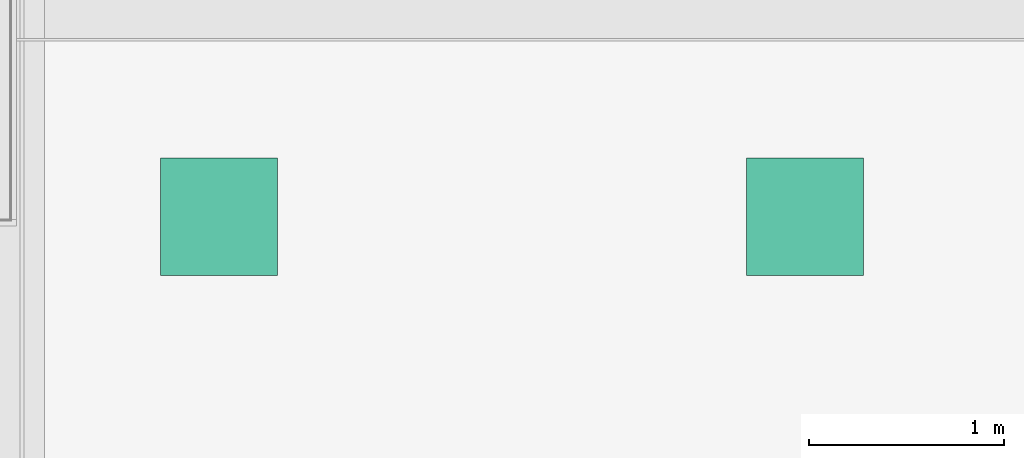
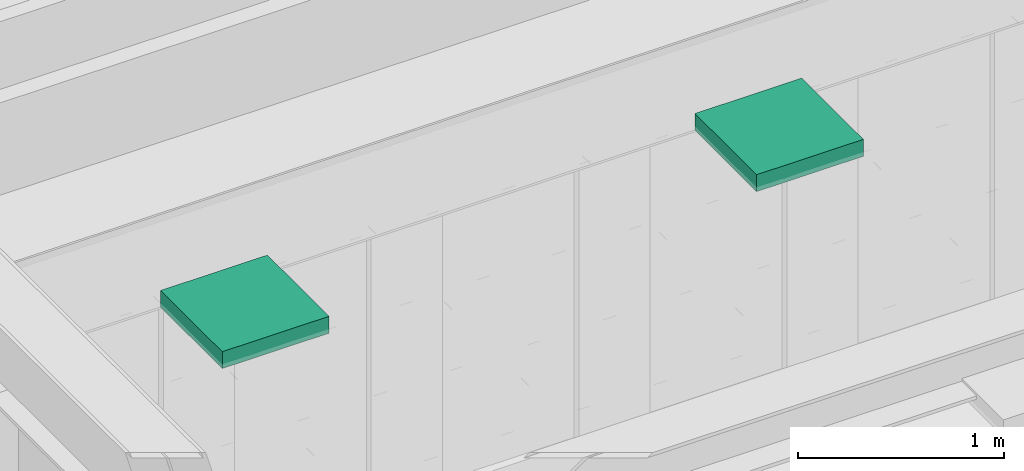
# One storey, part 238 of 347: 2 flow terminals.
"""IFC2X3 building model written with IfcOpenShell, lengths in millimetres."""

from ifc_helpers import new_model, entity, si_unit, converted_unit, derived_unit, money_unit, direction, frame, origin_with_axes, place, context, subcontext, project, spatial, open_shell, faceted_brep, surface_model, source, transform, mapped, type_object, type_shapes, element, save


model = new_model("IFC2X3")

# Units and contexts
model_context = context("Model", 3, precision=0.01, world=origin_with_axes(), true_north=direction((0.0, 1.0)))
plan_context = context("Plan", 3, precision=0.01, world=origin_with_axes(), true_north=direction((0.0, 1.0)))
body_context = subcontext(model_context, "Body", "Model", "MODEL_VIEW")
ifc_project = project(units=[si_unit("LENGTHUNIT", "METRE", prefix="MILLI"), si_unit("AREAUNIT", "SQUARE_METRE"), si_unit("VOLUMEUNIT", "CUBIC_METRE"), converted_unit("PLANEANGLEUNIT", "DEGREE", entity("IfcPlaneAngleMeasure", 0.0174532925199), si_unit("PLANEANGLEUNIT", "RADIAN"), dimensions=[0, 0, 0, 0, 0, 0, 0]), money_unit("EUR"), converted_unit("TIMEUNIT", "Year", entity("IfcTimeMeasure", 31556926.0), si_unit("TIMEUNIT", "SECOND"), dimensions=[0, 0, 1, 0, 0, 0, 0]), si_unit("MASSUNIT", "GRAM", prefix="KILO"), si_unit("THERMODYNAMICTEMPERATUREUNIT", "DEGREE_CELSIUS"), si_unit("LUMINOUSINTENSITYUNIT", "LUMEN"), si_unit("ENERGYUNIT", "JOULE", prefix="MEGA"), derived_unit("THERMALCONDUCTANCEUNIT", [(si_unit("POWERUNIT", "WATT"), 1), (si_unit("LENGTHUNIT", "METRE"), -1), (si_unit("THERMODYNAMICTEMPERATUREUNIT", "KELVIN"), -1)]), derived_unit("SPECIFICHEATCAPACITYUNIT", [(si_unit("ENERGYUNIT", "JOULE"), 1), (si_unit("MASSUNIT", "GRAM", prefix="KILO"), -1), (si_unit("THERMODYNAMICTEMPERATUREUNIT", "KELVIN"), -1)]), derived_unit("MASSDENSITYUNIT", [(si_unit("MASSUNIT", "GRAM", prefix="KILO"), 1), (si_unit("VOLUMEUNIT", "CUBIC_METRE"), -1)])], contexts=[model_context, plan_context])

# Site, building, storey
site_placement = place(None, origin_with_axes())
site = spatial("IfcSite", under=ifc_project, at=site_placement, Name="Site", CompositionType="ELEMENT")
building_placement = place(site_placement, origin_with_axes())
building = spatial("IfcBuilding", under=site, at=building_placement, Name="Naam gebouw", CompositionType="ELEMENT")
storey_placement = place(building_placement, origin_with_axes())
storey = spatial("IfcBuildingStorey", under=building, at=storey_placement, Name="begane grond", CompositionType="ELEMENT", Elevation=0.0)

# Flow terminals
lamp_type = type_object("IfcLampType", Name="TL plafond 25", PredefinedType="NOTDEFINED")
shared_shape = source(origin_with_axes(), body_context, "Body", "SurfaceModel", [
    faceted_brep([(0.0, 0.0, -100.0), (600.0, 0.0, -100.0), (600.0, 0.0, 0.0), (0.0, 0.0, 0.0), (0.0, 600.0, -100.0), (600.0, 600.0, -100.0), (40.0, 40.0, -100.0), (560.0, 40.0, -100.0), (560.0, 560.0, -100.0), (40.0, 560.0, -100.0), (600.0, 600.0, 0.0), (0.0, 600.0, 0.0), (40.0, 40.0, 0.0), (40.0, 560.0, 0.0), (560.0, 560.0, 0.0), (560.0, 40.0, 0.0)], [[[0, 1, 2, 3]], [[0, 4, 5, 1], [6, 7, 8, 9]], [[1, 5, 10, 2]], [[3, 2, 10, 11], [12, 13, 14, 15]], [[4, 0, 3, 11]], [[5, 4, 11, 10]], [[7, 6, 12, 15]], [[8, 7, 15, 14]], [[9, 8, 14, 13]], [[6, 9, 13, 12]]]),
    faceted_brep([(40.0, 40.0, -16.3333333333), (560.0, 40.0, -16.3333333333), (560.0, 40.0, 0.0), (40.0, 40.0, 0.0), (40.0, 560.0, -16.3333333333), (560.0, 560.0, -16.3333333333), (560.0, 560.0, 0.0), (40.0, 560.0, 0.0)], [[[0, 1, 2, 3]], [[0, 4, 5, 1]], [[1, 5, 6, 2]], [[3, 2, 6, 7]], [[4, 0, 3, 7]], [[5, 4, 7, 6]]]),
    surface_model("IfcShellBasedSurfaceModel", [(559.0, 41.0, -100.0), (40.0, 41.0, -100.0), (40.0, 559.0, -100.0), (559.0, 559.0, -100.0)], [open_shell([[[0, 1, 2, 3]]])]),
    faceted_brep([(40.0, 40.0, -100.0), (560.0, 40.0, -100.0), (560.0, 40.0, -60.0), (40.0, 40.0, -60.0), (40.0, 560.0, -100.0), (560.0, 560.0, -100.0), (41.0, 41.0, -100.0), (559.0, 41.0, -100.0), (559.0, 559.0, -100.0), (41.0, 559.0, -100.0), (560.0, 560.0, -60.0), (40.0, 560.0, -60.0), (41.0, 41.0, -60.0), (41.0, 559.0, -60.0), (559.0, 559.0, -60.0), (559.0, 41.0, -60.0)], [[[0, 1, 2, 3]], [[0, 4, 5, 1], [6, 7, 8, 9]], [[1, 5, 10, 2]], [[3, 2, 10, 11], [12, 13, 14, 15]], [[4, 0, 3, 11]], [[5, 4, 11, 10]], [[7, 6, 12, 15]], [[8, 7, 15, 14]], [[9, 8, 14, 13]], [[6, 9, 13, 12]]]),
    faceted_brep([(40.0, 144.0, -48.3333333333), (40.0, 149.740251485, -47.191526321), (560.0, 149.740251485, -47.191526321), (560.0, 144.0, -48.3333333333), (40.0, 138.259748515, -47.191526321), (40.0, 133.393398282, -43.9399350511), (40.0, 130.141807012, -39.0735848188), (40.0, 129.0, -33.3333333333), (40.0, 130.141807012, -27.5930818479), (40.0, 133.393398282, -22.7267316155), (40.0, 138.259748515, -19.4751403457), (40.0, 144.0, -18.3333333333), (40.0, 149.740251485, -19.4751403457), (40.0, 154.606601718, -22.7267316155), (40.0, 157.858192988, -27.5930818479), (40.0, 159.0, -33.3333333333), (40.0, 157.858192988, -39.0735848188), (40.0, 154.606601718, -43.9399350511), (40.0, 144.0, -46.3333333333), (40.0, 148.974884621, -45.343767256), (40.0, 153.192388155, -42.5257214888), (40.0, 156.010433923, -38.3082179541), (40.0, 157.0, -33.3333333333), (40.0, 156.010433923, -28.3584487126), (40.0, 153.192388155, -24.1409451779), (40.0, 148.974884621, -21.3228994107), (40.0, 144.0, -20.3333333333), (40.0, 139.025115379, -21.3228994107), (40.0, 134.807611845, -24.1409451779), (40.0, 131.989566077, -28.3584487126), (40.0, 131.0, -33.3333333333), (40.0, 131.989566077, -38.3082179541), (40.0, 134.807611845, -42.5257214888), (40.0, 139.025115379, -45.343767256), (560.0, 154.606601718, -43.9399350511), (560.0, 157.858192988, -39.0735848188), (560.0, 159.0, -33.3333333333), (560.0, 157.858192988, -27.5930818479), (560.0, 154.606601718, -22.7267316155), (560.0, 149.740251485, -19.4751403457), (560.0, 144.0, -18.3333333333), (560.0, 138.259748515, -19.4751403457), (560.0, 133.393398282, -22.7267316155), (560.0, 130.141807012, -27.5930818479), (560.0, 129.0, -33.3333333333), (560.0, 130.141807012, -39.0735848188), (560.0, 133.393398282, -43.9399350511), (560.0, 138.259748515, -47.191526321), (560.0, 144.0, -46.3333333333), (560.0, 139.025115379, -45.343767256), (560.0, 134.807611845, -42.5257214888), (560.0, 131.989566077, -38.3082179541), (560.0, 131.0, -33.3333333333), (560.0, 131.989566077, -28.3584487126), (560.0, 134.807611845, -24.1409451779), (560.0, 139.025115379, -21.3228994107), (560.0, 144.0, -20.3333333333), (560.0, 148.974884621, -21.3228994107), (560.0, 153.192388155, -24.1409451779), (560.0, 156.010433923, -28.3584487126), (560.0, 157.0, -33.3333333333), (560.0, 156.010433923, -38.3082179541), (560.0, 153.192388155, -42.5257214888), (560.0, 148.974884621, -45.343767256)], [[[0, 1, 2, 3]], [[0, 4, 5, 6, 7, 8, 9, 10, 11, 12, 13, 14, 15, 16, 17, 1], [18, 19, 20, 21, 22, 23, 24, 25, 26, 27, 28, 29, 30, 31, 32, 33]], [[1, 17, 34, 2]], [[3, 2, 34, 35, 36, 37, 38, 39, 40, 41, 42, 43, 44, 45, 46, 47], [48, 49, 50, 51, 52, 53, 54, 55, 56, 57, 58, 59, 60, 61, 62, 63]], [[4, 0, 3, 47]], [[5, 4, 47, 46]], [[6, 5, 46, 45]], [[7, 6, 45, 44]], [[8, 7, 44, 43]], [[9, 8, 43, 42]], [[10, 9, 42, 41]], [[11, 10, 41, 40]], [[12, 11, 40, 39]], [[13, 12, 39, 38]], [[14, 13, 38, 37]], [[15, 14, 37, 36]], [[16, 15, 36, 35]], [[17, 16, 35, 34]], [[19, 18, 48, 63]], [[20, 19, 63, 62]], [[21, 20, 62, 61]], [[22, 21, 61, 60]], [[23, 22, 60, 59]], [[24, 23, 59, 58]], [[25, 24, 58, 57]], [[26, 25, 57, 56]], [[27, 26, 56, 55]], [[28, 27, 55, 54]], [[29, 28, 54, 53]], [[30, 29, 53, 52]], [[31, 30, 52, 51]], [[32, 31, 51, 50]], [[33, 32, 50, 49]], [[18, 33, 49, 48]]]),
    faceted_brep([(40.0, 248.0, -48.3333333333), (40.0, 253.740251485, -47.191526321), (560.0, 253.740251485, -47.191526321), (560.0, 248.0, -48.3333333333), (40.0, 242.259748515, -47.191526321), (40.0, 237.393398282, -43.9399350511), (40.0, 234.141807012, -39.0735848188), (40.0, 233.0, -33.3333333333), (40.0, 234.141807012, -27.5930818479), (40.0, 237.393398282, -22.7267316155), (40.0, 242.259748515, -19.4751403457), (40.0, 248.0, -18.3333333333), (40.0, 253.740251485, -19.4751403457), (40.0, 258.606601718, -22.7267316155), (40.0, 261.858192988, -27.5930818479), (40.0, 263.0, -33.3333333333), (40.0, 261.858192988, -39.0735848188), (40.0, 258.606601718, -43.9399350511), (40.0, 248.0, -46.3333333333), (40.0, 252.974884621, -45.343767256), (40.0, 257.192388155, -42.5257214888), (40.0, 260.010433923, -38.3082179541), (40.0, 261.0, -33.3333333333), (40.0, 260.010433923, -28.3584487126), (40.0, 257.192388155, -24.1409451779), (40.0, 252.974884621, -21.3228994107), (40.0, 248.0, -20.3333333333), (40.0, 243.025115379, -21.3228994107), (40.0, 238.807611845, -24.1409451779), (40.0, 235.989566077, -28.3584487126), (40.0, 235.0, -33.3333333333), (40.0, 235.989566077, -38.3082179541), (40.0, 238.807611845, -42.5257214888), (40.0, 243.025115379, -45.343767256), (560.0, 258.606601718, -43.9399350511), (560.0, 261.858192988, -39.0735848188), (560.0, 263.0, -33.3333333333), (560.0, 261.858192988, -27.5930818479), (560.0, 258.606601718, -22.7267316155), (560.0, 253.740251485, -19.4751403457), (560.0, 248.0, -18.3333333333), (560.0, 242.259748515, -19.4751403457), (560.0, 237.393398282, -22.7267316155), (560.0, 234.141807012, -27.5930818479), (560.0, 233.0, -33.3333333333), (560.0, 234.141807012, -39.0735848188), (560.0, 237.393398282, -43.9399350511), (560.0, 242.259748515, -47.191526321), (560.0, 248.0, -46.3333333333), (560.0, 243.025115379, -45.343767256), (560.0, 238.807611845, -42.5257214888), (560.0, 235.989566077, -38.3082179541), (560.0, 235.0, -33.3333333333), (560.0, 235.989566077, -28.3584487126), (560.0, 238.807611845, -24.1409451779), (560.0, 243.025115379, -21.3228994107), (560.0, 248.0, -20.3333333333), (560.0, 252.974884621, -21.3228994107), (560.0, 257.192388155, -24.1409451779), (560.0, 260.010433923, -28.3584487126), (560.0, 261.0, -33.3333333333), (560.0, 260.010433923, -38.3082179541), (560.0, 257.192388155, -42.5257214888), (560.0, 252.974884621, -45.343767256)], [[[0, 1, 2, 3]], [[0, 4, 5, 6, 7, 8, 9, 10, 11, 12, 13, 14, 15, 16, 17, 1], [18, 19, 20, 21, 22, 23, 24, 25, 26, 27, 28, 29, 30, 31, 32, 33]], [[1, 17, 34, 2]], [[3, 2, 34, 35, 36, 37, 38, 39, 40, 41, 42, 43, 44, 45, 46, 47], [48, 49, 50, 51, 52, 53, 54, 55, 56, 57, 58, 59, 60, 61, 62, 63]], [[4, 0, 3, 47]], [[5, 4, 47, 46]], [[6, 5, 46, 45]], [[7, 6, 45, 44]], [[8, 7, 44, 43]], [[9, 8, 43, 42]], [[10, 9, 42, 41]], [[11, 10, 41, 40]], [[12, 11, 40, 39]], [[13, 12, 39, 38]], [[14, 13, 38, 37]], [[15, 14, 37, 36]], [[16, 15, 36, 35]], [[17, 16, 35, 34]], [[19, 18, 48, 63]], [[20, 19, 63, 62]], [[21, 20, 62, 61]], [[22, 21, 61, 60]], [[23, 22, 60, 59]], [[24, 23, 59, 58]], [[25, 24, 58, 57]], [[26, 25, 57, 56]], [[27, 26, 56, 55]], [[28, 27, 55, 54]], [[29, 28, 54, 53]], [[30, 29, 53, 52]], [[31, 30, 52, 51]], [[32, 31, 51, 50]], [[33, 32, 50, 49]], [[18, 33, 49, 48]]]),
    faceted_brep([(40.0, 352.0, -48.3333333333), (40.0, 357.740251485, -47.191526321), (560.0, 357.740251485, -47.191526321), (560.0, 352.0, -48.3333333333), (40.0, 346.259748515, -47.191526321), (40.0, 341.393398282, -43.9399350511), (40.0, 338.141807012, -39.0735848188), (40.0, 337.0, -33.3333333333), (40.0, 338.141807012, -27.5930818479), (40.0, 341.393398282, -22.7267316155), (40.0, 346.259748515, -19.4751403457), (40.0, 352.0, -18.3333333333), (40.0, 357.740251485, -19.4751403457), (40.0, 362.606601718, -22.7267316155), (40.0, 365.858192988, -27.5930818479), (40.0, 367.0, -33.3333333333), (40.0, 365.858192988, -39.0735848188), (40.0, 362.606601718, -43.9399350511), (40.0, 352.0, -46.3333333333), (40.0, 356.974884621, -45.343767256), (40.0, 361.192388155, -42.5257214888), (40.0, 364.010433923, -38.3082179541), (40.0, 365.0, -33.3333333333), (40.0, 364.010433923, -28.3584487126), (40.0, 361.192388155, -24.1409451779), (40.0, 356.974884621, -21.3228994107), (40.0, 352.0, -20.3333333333), (40.0, 347.025115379, -21.3228994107), (40.0, 342.807611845, -24.1409451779), (40.0, 339.989566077, -28.3584487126), (40.0, 339.0, -33.3333333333), (40.0, 339.989566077, -38.3082179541), (40.0, 342.807611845, -42.5257214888), (40.0, 347.025115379, -45.343767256), (560.0, 362.606601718, -43.9399350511), (560.0, 365.858192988, -39.0735848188), (560.0, 367.0, -33.3333333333), (560.0, 365.858192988, -27.5930818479), (560.0, 362.606601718, -22.7267316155), (560.0, 357.740251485, -19.4751403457), (560.0, 352.0, -18.3333333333), (560.0, 346.259748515, -19.4751403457), (560.0, 341.393398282, -22.7267316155), (560.0, 338.141807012, -27.5930818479), (560.0, 337.0, -33.3333333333), (560.0, 338.141807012, -39.0735848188), (560.0, 341.393398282, -43.9399350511), (560.0, 346.259748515, -47.191526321), (560.0, 352.0, -46.3333333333), (560.0, 347.025115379, -45.343767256), (560.0, 342.807611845, -42.5257214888), (560.0, 339.989566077, -38.3082179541), (560.0, 339.0, -33.3333333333), (560.0, 339.989566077, -28.3584487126), (560.0, 342.807611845, -24.1409451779), (560.0, 347.025115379, -21.3228994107), (560.0, 352.0, -20.3333333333), (560.0, 356.974884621, -21.3228994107), (560.0, 361.192388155, -24.1409451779), (560.0, 364.010433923, -28.3584487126), (560.0, 365.0, -33.3333333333), (560.0, 364.010433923, -38.3082179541), (560.0, 361.192388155, -42.5257214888), (560.0, 356.974884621, -45.343767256)], [[[0, 1, 2, 3]], [[0, 4, 5, 6, 7, 8, 9, 10, 11, 12, 13, 14, 15, 16, 17, 1], [18, 19, 20, 21, 22, 23, 24, 25, 26, 27, 28, 29, 30, 31, 32, 33]], [[1, 17, 34, 2]], [[3, 2, 34, 35, 36, 37, 38, 39, 40, 41, 42, 43, 44, 45, 46, 47], [48, 49, 50, 51, 52, 53, 54, 55, 56, 57, 58, 59, 60, 61, 62, 63]], [[4, 0, 3, 47]], [[5, 4, 47, 46]], [[6, 5, 46, 45]], [[7, 6, 45, 44]], [[8, 7, 44, 43]], [[9, 8, 43, 42]], [[10, 9, 42, 41]], [[11, 10, 41, 40]], [[12, 11, 40, 39]], [[13, 12, 39, 38]], [[14, 13, 38, 37]], [[15, 14, 37, 36]], [[16, 15, 36, 35]], [[17, 16, 35, 34]], [[19, 18, 48, 63]], [[20, 19, 63, 62]], [[21, 20, 62, 61]], [[22, 21, 61, 60]], [[23, 22, 60, 59]], [[24, 23, 59, 58]], [[25, 24, 58, 57]], [[26, 25, 57, 56]], [[27, 26, 56, 55]], [[28, 27, 55, 54]], [[29, 28, 54, 53]], [[30, 29, 53, 52]], [[31, 30, 52, 51]], [[32, 31, 51, 50]], [[33, 32, 50, 49]], [[18, 33, 49, 48]]]),
    faceted_brep([(40.0, 456.0, -48.3333333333), (40.0, 461.740251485, -47.191526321), (560.0, 461.740251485, -47.191526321), (560.0, 456.0, -48.3333333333), (40.0, 450.259748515, -47.191526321), (40.0, 445.393398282, -43.9399350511), (40.0, 442.141807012, -39.0735848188), (40.0, 441.0, -33.3333333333), (40.0, 442.141807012, -27.5930818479), (40.0, 445.393398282, -22.7267316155), (40.0, 450.259748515, -19.4751403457), (40.0, 456.0, -18.3333333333), (40.0, 461.740251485, -19.4751403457), (40.0, 466.606601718, -22.7267316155), (40.0, 469.858192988, -27.5930818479), (40.0, 471.0, -33.3333333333), (40.0, 469.858192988, -39.0735848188), (40.0, 466.606601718, -43.9399350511), (40.0, 456.0, -46.3333333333), (40.0, 460.974884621, -45.343767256), (40.0, 465.192388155, -42.5257214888), (40.0, 468.010433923, -38.3082179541), (40.0, 469.0, -33.3333333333), (40.0, 468.010433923, -28.3584487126), (40.0, 465.192388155, -24.1409451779), (40.0, 460.974884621, -21.3228994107), (40.0, 456.0, -20.3333333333), (40.0, 451.025115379, -21.3228994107), (40.0, 446.807611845, -24.1409451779), (40.0, 443.989566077, -28.3584487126), (40.0, 443.0, -33.3333333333), (40.0, 443.989566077, -38.3082179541), (40.0, 446.807611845, -42.5257214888), (40.0, 451.025115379, -45.343767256), (560.0, 466.606601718, -43.9399350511), (560.0, 469.858192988, -39.0735848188), (560.0, 471.0, -33.3333333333), (560.0, 469.858192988, -27.5930818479), (560.0, 466.606601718, -22.7267316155), (560.0, 461.740251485, -19.4751403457), (560.0, 456.0, -18.3333333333), (560.0, 450.259748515, -19.4751403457), (560.0, 445.393398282, -22.7267316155), (560.0, 442.141807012, -27.5930818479), (560.0, 441.0, -33.3333333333), (560.0, 442.141807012, -39.0735848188), (560.0, 445.393398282, -43.9399350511), (560.0, 450.259748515, -47.191526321), (560.0, 456.0, -46.3333333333), (560.0, 451.025115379, -45.343767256), (560.0, 446.807611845, -42.5257214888), (560.0, 443.989566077, -38.3082179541), (560.0, 443.0, -33.3333333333), (560.0, 443.989566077, -28.3584487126), (560.0, 446.807611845, -24.1409451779), (560.0, 451.025115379, -21.3228994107), (560.0, 456.0, -20.3333333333), (560.0, 460.974884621, -21.3228994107), (560.0, 465.192388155, -24.1409451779), (560.0, 468.010433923, -28.3584487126), (560.0, 469.0, -33.3333333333), (560.0, 468.010433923, -38.3082179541), (560.0, 465.192388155, -42.5257214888), (560.0, 460.974884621, -45.343767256)], [[[0, 1, 2, 3]], [[0, 4, 5, 6, 7, 8, 9, 10, 11, 12, 13, 14, 15, 16, 17, 1], [18, 19, 20, 21, 22, 23, 24, 25, 26, 27, 28, 29, 30, 31, 32, 33]], [[1, 17, 34, 2]], [[3, 2, 34, 35, 36, 37, 38, 39, 40, 41, 42, 43, 44, 45, 46, 47], [48, 49, 50, 51, 52, 53, 54, 55, 56, 57, 58, 59, 60, 61, 62, 63]], [[4, 0, 3, 47]], [[5, 4, 47, 46]], [[6, 5, 46, 45]], [[7, 6, 45, 44]], [[8, 7, 44, 43]], [[9, 8, 43, 42]], [[10, 9, 42, 41]], [[11, 10, 41, 40]], [[12, 11, 40, 39]], [[13, 12, 39, 38]], [[14, 13, 38, 37]], [[15, 14, 37, 36]], [[16, 15, 36, 35]], [[17, 16, 35, 34]], [[19, 18, 48, 63]], [[20, 19, 63, 62]], [[21, 20, 62, 61]], [[22, 21, 61, 60]], [[23, 22, 60, 59]], [[24, 23, 59, 58]], [[25, 24, 58, 57]], [[26, 25, 57, 56]], [[27, 26, 56, 55]], [[28, 27, 55, 54]], [[29, 28, 54, 53]], [[30, 29, 53, 52]], [[31, 30, 52, 51]], [[32, 31, 51, 50]], [[33, 32, 50, 49]], [[18, 33, 49, 48]]]),
])
type_shapes(lamp_type, [shared_shape])
for number, where, z_axis, x_axis, name in (
    (1, (39475.0000194, 14115.0095364, 3595.0), (0.0, 0.0, 1.0), (1.0, 0.0, 0.0), "63_Lamp-x"),
    (2, (36475.0000194, 14115.0095364, 3595.0), (0.0, 0.0, 1.0), (1.0, 0.0, 0.0), "63_Lamp-x"),
):
    element("IfcFlowTerminal", number, at=place(storey_placement, frame(where, z_axis=z_axis, x_axis=x_axis)), inside=storey, type_object=lamp_type, Name=name, ObjectType="Lamp", context=body_context, shape_type="MappedRepresentation", body=[
        mapped(shared_shape, transform((0.0, 0.0, 0.0))),
    ])

save(model, "model.ifc")
